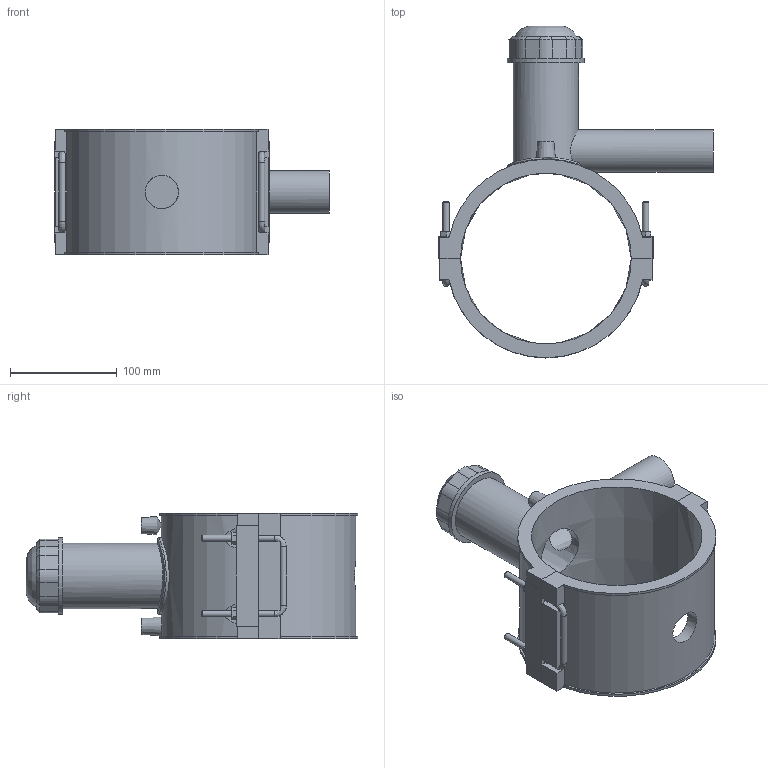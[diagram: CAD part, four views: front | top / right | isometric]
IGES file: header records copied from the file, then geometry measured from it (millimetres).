
Global section: file name: 496304160040.ipt; native system: Autodesk Inventor 2015; preprocessor: unknown; author: KIM; date: 20190124.131030; units: millimetre
Bounding box: 257.5 x 311.02 x 118 mm (x, y, z)
Volume: 1042279 mm3; surface area: 239144.7 mm2
Topology: 2 solids, 2 shells, 181 faces, 467 edges, 304 vertices
Faces by surface type: plane 110, cylinder 32, revolution 20, cone 14, bspline 5
Full cylindrical faces by diameter (mm): 4 x2, 6 x10, 40 x1, 61.2 x1, 72 x1
